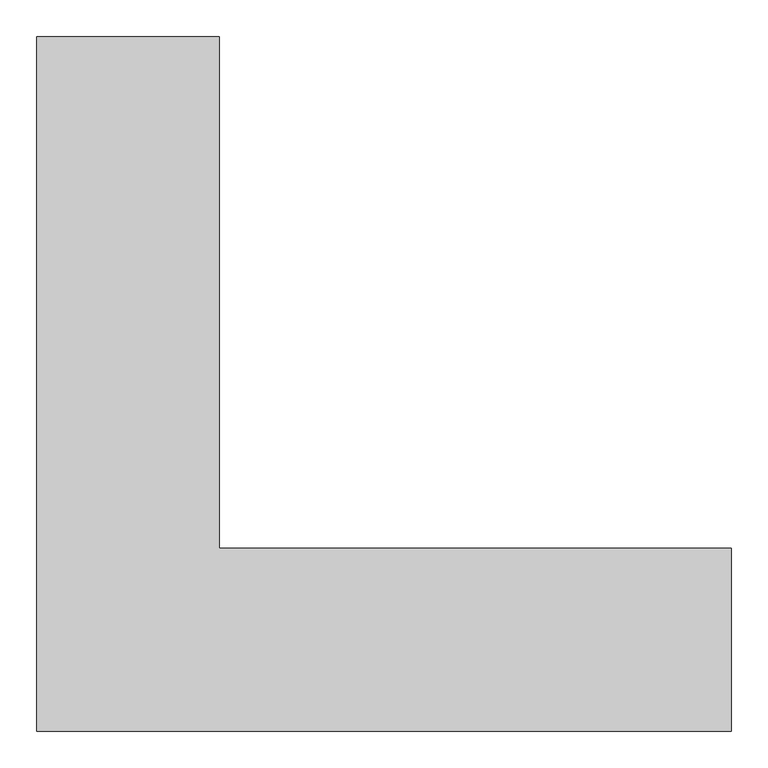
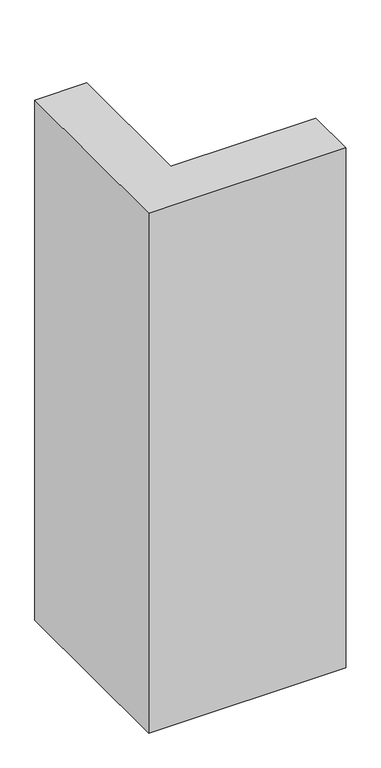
"""IFC4 building model written with IfcOpenShell, lengths in millimetres: column geometry, Columna Estructural Ele : ECO_Ele 95x95x25."""

from ifc_helpers import new_model, si_unit, frame, origin, place, context, project, spatial, polyline, outline, extrude, source, transform, mapped, element, save


def column_24cc4a40(model_context):
    return source(origin(), model_context, "Body", "SweptSolid", [
        extrude(outline(polyline([(125.0, 825.0), (125.0, 125.0), (825.0, 125.0), (825.0, -125.0), (-125.0, -125.0), (-125.0, 825.0), (125.0, 825.0)])), frame((0.0, 0.0, 8050.0), z_axis=(0.0, 0.0, 1.0), x_axis=(1.0, 0.0, 0.0)), (0.0, 0.0, 1.0), 2650.0),
    ])


if __name__ == "__main__":
    model = new_model("IFC4")
    model_context = context("Model", 3, world=origin())
    ifc_project = project(units=[si_unit("LENGTHUNIT", "METRE", prefix="MILLI")], contexts=[model_context])
    site = spatial("IfcSite", under=ifc_project)
    building = spatial("IfcBuilding", under=site)
    placement = place(None, origin())
    column_shape = column_24cc4a40(model_context)
    element("IfcColumn", 1, ObjectType="Columna Estructural Ele : ECO_Ele 95x95x25", at=placement, inside=building, context=model_context, shape_type="MappedRepresentation", body=[
        mapped(column_shape, transform((0.0, 0.0, 0.0), x_axis=(1.0, 0.0, 0.0), y_axis=(0.0, 1.0, 0.0), z_axis=(0.0, 0.0, 1.0))),
    ])
    save(model, "model.ifc")
